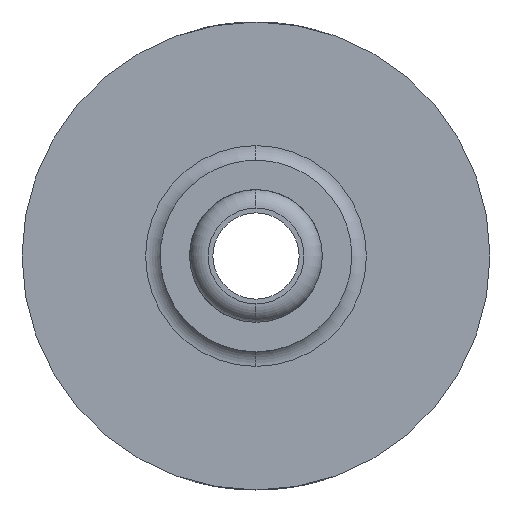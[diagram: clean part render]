
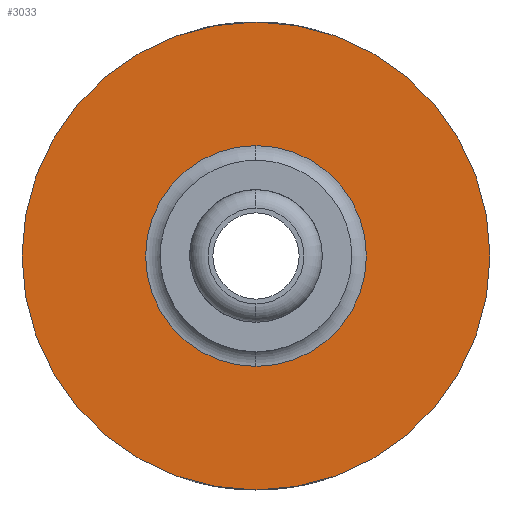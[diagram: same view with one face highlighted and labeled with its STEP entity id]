
A CAD part, left-side view. The second image highlights one B-rep face of the part: STEP entity #3033.
In plain terms, the highlighted planar face has unit normal (-1, 0, 0).
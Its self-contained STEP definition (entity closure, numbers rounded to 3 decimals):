
#61=FACE_BOUND('',#930,.T.);
#71=PLANE('',#3345);
#760=FACE_OUTER_BOUND('',#929,.T.);
#929=EDGE_LOOP('',(#2322,#2323));
#930=EDGE_LOOP('',(#2324,#2325));
#1082=CIRCLE('',#3198,1.498);
#1139=CIRCLE('',#3274,3.175);
#1174=CIRCLE('',#3310,3.175);
#1199=CIRCLE('',#3346,1.498);
#1239=VERTEX_POINT('',#4296);
#1240=VERTEX_POINT('',#4297);
#1347=VERTEX_POINT('',#4730);
#1348=VERTEX_POINT('',#4732);
#1561=EDGE_CURVE('',#1239,#1240,#1082,.T.);
#1674=EDGE_CURVE('',#1348,#1347,#1139,.T.);
#1746=EDGE_CURVE('',#1347,#1348,#1174,.T.);
#1808=EDGE_CURVE('',#1240,#1239,#1199,.T.);
#2322=ORIENTED_EDGE('',*,*,#1674,.T.);
#2323=ORIENTED_EDGE('',*,*,#1746,.T.);
#2324=ORIENTED_EDGE('',*,*,#1808,.T.);
#2325=ORIENTED_EDGE('',*,*,#1561,.T.);
#3033=ADVANCED_FACE('',(#760,#61),#71,.F.);
#3198=AXIS2_PLACEMENT_3D('',#4298,#3490,#3491);
#3274=AXIS2_PLACEMENT_3D('',#4733,#3679,#3680);
#3310=AXIS2_PLACEMENT_3D('',#4968,#3782,#3783);
#3345=AXIS2_PLACEMENT_3D('',#5497,#3864,#3865);
#3346=AXIS2_PLACEMENT_3D('',#5498,#3866,#3867);
#3490=DIRECTION('center_axis',(1.,0.,0.));
#3491=DIRECTION('ref_axis',(0.,0.,
1.));
#3679=DIRECTION('center_axis',(-1.,0.,0.));
#3680=DIRECTION('ref_axis',(0.,0.,1.));
#3782=DIRECTION('center_axis',(-1.,0.,0.));
#3783=DIRECTION('ref_axis',(0.,0.,
-1.));
#3864=DIRECTION('center_axis',(1.,0.,0.));
#3865=DIRECTION('ref_axis',(0.,0.,-1.));
#3866=DIRECTION('center_axis',(1.,0.,0.));
#3867=DIRECTION('ref_axis',(0.,0.,-1.));
#4296=CARTESIAN_POINT('',(-6.125,0.,1.498));
#4297=CARTESIAN_POINT('',(-6.125,0.,-1.498));
#4298=CARTESIAN_POINT('Origin',(-6.125,0.,0.));
#4730=CARTESIAN_POINT('',(-6.125,0.,-3.175));
#4732=CARTESIAN_POINT('',(-6.125,0.,3.175));
#4733=CARTESIAN_POINT('Origin',(-6.125,0.,0.));
#4968=CARTESIAN_POINT('Origin',(-6.125,0.,0.));
#5497=CARTESIAN_POINT('Origin',(-6.125,-3.213,0.));
#5498=CARTESIAN_POINT('Origin',(-6.125,0.,0.));
